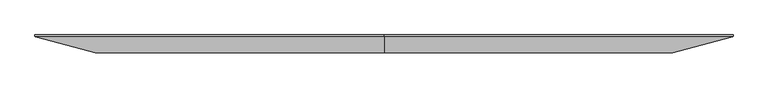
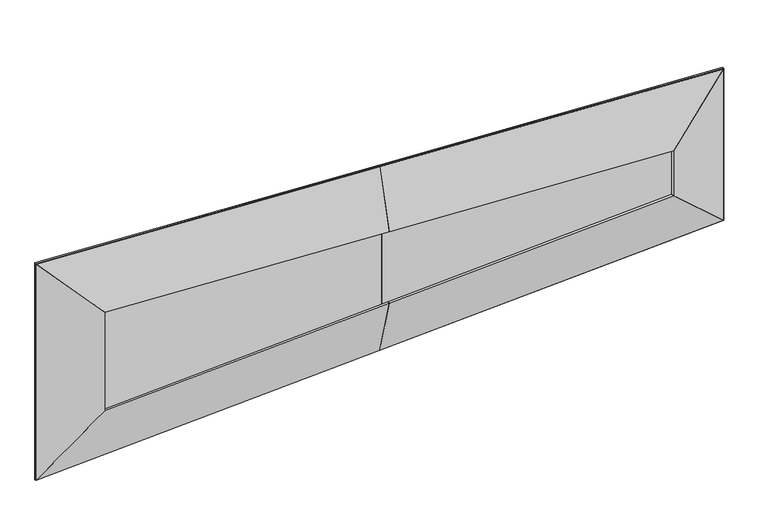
"""IFC4 building model written with IfcOpenShell, lengths in millimetres: proxy geometry, AERO^TABLE 4_4260 WEDGE-PARTS SOLID."""

from ifc_helpers import new_model, si_unit, origin, place, context, project, spatial, faceted_brep, source, transform, mapped, element, save


def generic_models_3990db88(model_context):
    return source(origin(), model_context, "Body", "Brep", [
        faceted_brep([(3.183005, 22.225, -3.3422203), (40.4444057, 22.225, -42.4674529), (399.0431348, -73.7433188, -419.0034498), (395.7600268, -86.0116015, -415.5561194), (3.183005, 19.05, -3.3422203), (2286.0, -73.7433188, -513.3512931), (2286.0, -86.0116015, -510.068118), (2286.0, 22.225, -154.7452326), (2286.0, 22.225, -117.4830701), (2286.0, 19.05, -117.4830701)], [[[0, 1, 2, 3, 4]], [[3, 2, 5, 6]], [[2, 1, 7, 5]], [[1, 0, 8, 7]], [[0, 4, 9, 8]], [[4, 3, 6, 9]], [[5, 7, 8, 9, 6]]]),
        faceted_brep([(4568.816995, 22.225, -231.6239198), (4568.816995, 19.05, -231.6239198), (4176.2399732, -86.0116015, -604.5801167), (4172.9568652, -73.7433188, -607.6991364), (4531.5555943, 22.225, -267.0230123), (2286.0, -86.0116015, -510.068118), (2286.0, -73.7433188, -513.3512931), (2286.0, 19.05, -117.4830701), (2286.0, 22.225, -117.4830701), (2286.0, 22.225, -154.7452326)], [[[0, 1, 2, 3, 4]], [[3, 2, 5, 6]], [[2, 1, 7, 5]], [[1, 0, 8, 7]], [[0, 4, 9, 8]], [[4, 3, 6, 9]], [[5, 7, 8, 9, 6]]]),
        faceted_brep([(4572.0, 31.75, -1295.4), (2286.0, 31.75, -1409.7), (2286.0, 31.75, -114.3), (4572.0, 31.75, -228.6), (4448.6604001, 0.0, -345.9266981), (2286.0, 0.0, -237.7936781), (2286.0, 0.0, -1286.2063219), (4448.6604001, 0.0, -1178.0733019), (2286.0, 22.225, -1369.2547674), (4531.6052293, 22.225, -1256.9745059), (4531.6052293, 22.225, -267.0254941), (2286.0, 22.225, -154.7452326), (2286.0, 22.225, -114.3), (2286.0, 22.225, -1409.7), (4572.0, 22.225, -1295.4), (4572.0, 22.225, -228.6)], [[[0, 1, 2, 3]], [[4, 5, 6, 7]], [[6, 8, 9, 7]], [[7, 9, 10, 4]], [[11, 5, 4, 10]], [[12, 11, 10, 9, 8, 13, 14, 15]], [[12, 15, 3, 2]], [[15, 14, 0, 3]], [[5, 11, 12, 2, 1, 13, 8, 6]], [[14, 13, 1, 0]]]),
        faceted_brep([(3.175, 22.225, -3.3338149), (3.175, 19.05, -3.3338149), (395.7272558, -86.1340599, -415.5217091), (399.0142577, -73.8668019, -418.9731283), (40.3947707, 22.225, -42.4153351), (395.7272558, -86.1340599, -1108.4782909), (399.0142577, -73.8668019, -1105.0268717), (3.175, 19.05, -1520.6661851), (3.175, 22.225, -1520.6661851), (40.3947707, 22.225, -1481.5846649)], [[[0, 1, 2, 3, 4]], [[3, 2, 5, 6]], [[2, 1, 7, 5]], [[6, 5, 7, 8, 9]], [[1, 0, 8, 7]], [[4, 3, 6, 9]], [[0, 4, 9, 8]]]),
        faceted_brep([(4172.9857423, -73.8668019, -916.3283394), (4531.6052293, 22.225, -1257.0241462), (4568.825, 22.225, -1292.3836854), (4568.825, 19.05, -1292.3836854), (4176.2727442, -86.1340599, -919.451058), (4568.825, 22.225, -231.6163149), (4568.825, 19.05, -231.6163149), (4531.6052293, 22.225, -266.975858), (4172.9857423, -73.8668019, -607.6717025), (4176.2727442, -86.1340599, -604.5489836)], [[[0, 1, 2, 3, 4]], [[3, 2, 5, 6]], [[2, 1, 7, 5]], [[6, 5, 7, 8, 9]], [[1, 0, 8, 7]], [[4, 3, 6, 9]], [[0, 4, 9, 8]]]),
        faceted_brep([(4568.8169947, 22.225, -1292.3760802), (4531.55559, 22.225, -1256.9769879), (4172.9568233, -73.7433188, -916.3008657), (4176.2399316, -86.0116015, -919.4198854), (4568.8169947, 19.05, -1292.3760802), (2286.0, -73.7433188, -1010.6487069), (2286.0, -86.0116015, -1013.931882), (2286.0, 22.225, -1369.2547674), (2286.0, 22.225, -1406.5169299), (2286.0, 19.05, -1406.5169299)], [[[0, 1, 2, 3, 4]], [[3, 2, 5, 6]], [[2, 1, 7, 5]], [[1, 0, 8, 7]], [[0, 4, 9, 8]], [[4, 3, 6, 9]], [[5, 7, 8, 9, 6]]]),
        faceted_brep([(0.0, 31.75, 0.0), (2286.0, 31.75, -114.3), (2286.0, 31.75, -1409.7), (0.0, 31.75, -1524.0), (123.3395999, 0.0, -1394.3393419), (2286.0, 0.0, -1286.2063219), (2286.0, 0.0, -237.7936781), (123.3395999, 0.0, -129.6606581), (2286.0, 22.225, -1369.2547674), (40.3947707, 22.225, -1481.5350289), (40.3947707, 22.225, -42.4649711), (2286.0, 22.225, -154.7452326), (2286.0, 22.225, -1409.7), (2286.0, 22.225, -114.3), (0.0, 22.225, 0.0), (0.0, 22.225, -1524.0)], [[[0, 1, 2, 3]], [[4, 5, 6, 7]], [[8, 5, 4, 9]], [[9, 4, 7, 10]], [[6, 11, 10, 7]], [[5, 8, 12, 2, 1, 13, 11, 6]], [[11, 13, 14, 15, 12, 8, 9, 10]], [[15, 14, 0, 3]], [[12, 15, 3, 2]], [[14, 13, 1, 0]]]),
        faceted_brep([(3.183005, 22.225, -1520.6577797), (3.183005, 19.05, -1520.6577797), (395.7600268, -86.0116015, -1108.4438806), (399.0431348, -73.7433188, -1104.9965502), (40.4444057, 22.225, -1481.5325471), (2286.0, -86.0116015, -1013.931882), (2286.0, -73.7433188, -1010.6487069), (2286.0, 19.05, -1406.5169299), (2286.0, 22.225, -1406.5169299), (2286.0, 22.225, -1369.2547674)], [[[0, 1, 2, 3, 4]], [[3, 2, 5, 6]], [[2, 1, 7, 5]], [[1, 0, 8, 7]], [[0, 4, 9, 8]], [[4, 3, 6, 9]], [[5, 7, 8, 9, 6]]]),
    ])


if __name__ == "__main__":
    model = new_model("IFC4")
    model_context = context("Model", 3, world=origin())
    ifc_project = project(units=[si_unit("LENGTHUNIT", "METRE", prefix="MILLI")], contexts=[model_context])
    site = spatial("IfcSite", under=ifc_project)
    building = spatial("IfcBuilding", under=site)
    placement = place(None, origin())
    generic_models_shape = generic_models_3990db88(model_context)
    element("IfcBuildingElementProxy", 1, Name="AERO^TABLE 4_4260 WEDGE-PARTS SOLID", ObjectType="AERO^TABLE 4_4260 WEDGE-PARTS SOLID", at=placement, inside=building, context=model_context, shape_type="MappedRepresentation", body=[
        mapped(generic_models_shape, transform((0.0, 0.0, 0.0), x_axis=(1.0, 0.0, 0.0), y_axis=(0.0, 1.0, 0.0), z_axis=(0.0, 0.0, 1.0))),
    ])
    save(model, "model.ifc")
